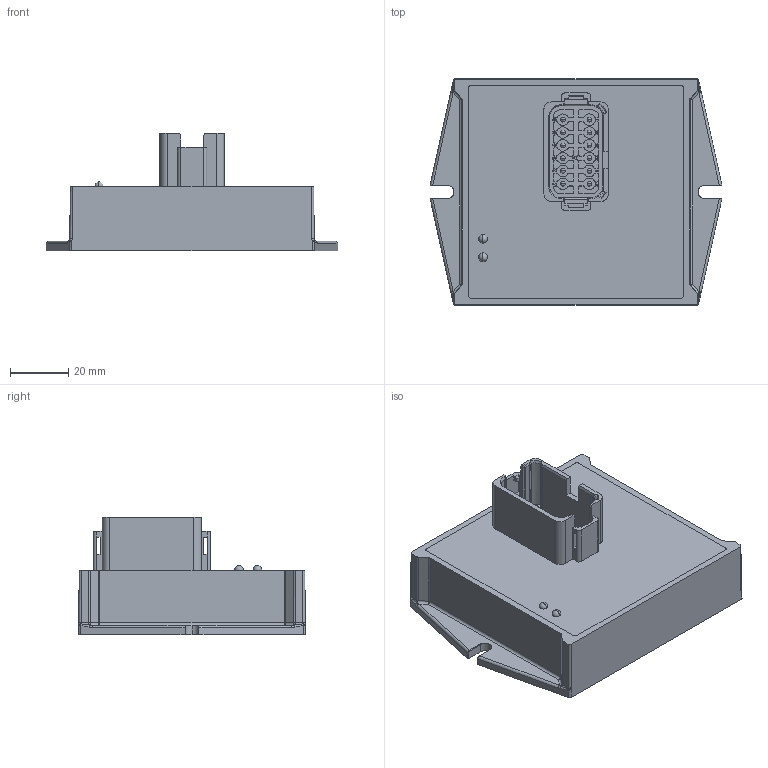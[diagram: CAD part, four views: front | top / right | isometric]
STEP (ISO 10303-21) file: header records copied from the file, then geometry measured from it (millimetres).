
FILE_DESCRIPTION (( 'STEP AP214' ), '1' );
FILE_NAME ('505650.STEP', '2022-03-29T17:01:21', ( '' ), ( '' ), 'SwSTEP 2.0', 'SolidWorks 2022', '' );
FILE_SCHEMA (( 'AUTOMOTIVE_DESIGN' ));
Length unit declared in the file: millimetre
Products named in the file (5): 100950; 505650; 13747BB; LED 3mm Bi_Standard; 505650_Potting
Assembly tree (5 placements, depth 2):
  505650
    100950
    13747BB
    LED 3mm Bi_Standard  x2
    505650_Potting
Bounding box: 100.54 x 78.18 x 40.34 mm (x, y, z)
Volume: 125012 mm3; surface area: 70521.4 mm2
Topology: 4 solids, 349 shells, 6503 faces, 15847 edges, 9827 vertices
Faces by surface type: plane 4172, cylinder 1692, sphere 310, bspline 250, cone 42, torus 37
Entity records: 202562 total; most frequent: CARTESIAN_POINT 47534, ORIENTED_EDGE 30932, DIRECTION 29945, EDGE_CURVE 15467, LINE 10727, VECTOR 10727, VERTEX_POINT 9796, AXIS2_PLACEMENT_3D 9609
